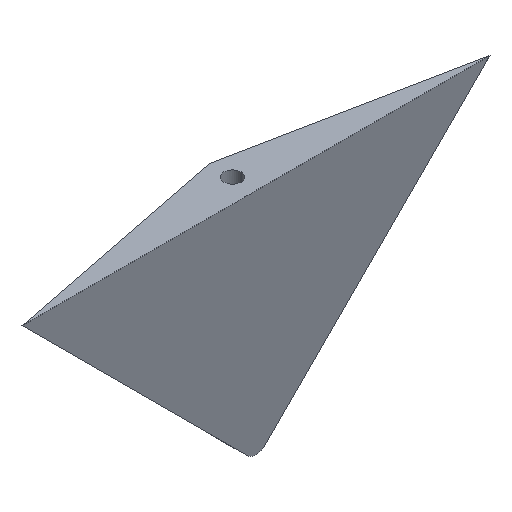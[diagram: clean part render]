
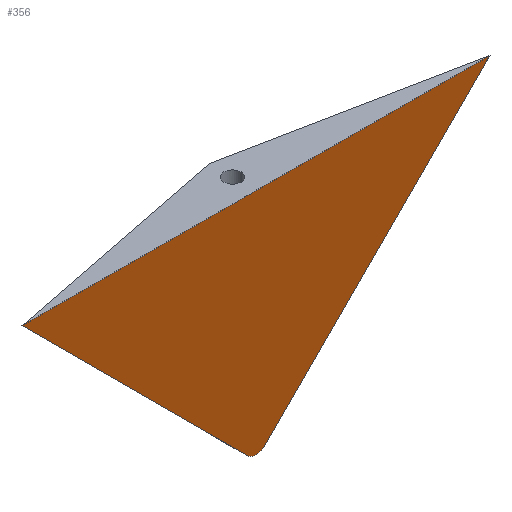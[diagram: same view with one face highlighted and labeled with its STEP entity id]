
A CAD part, isometric view. The second image highlights one B-rep face of the part: STEP entity #356.
In plain terms, the highlighted planar face has unit normal (0, -1, 0).
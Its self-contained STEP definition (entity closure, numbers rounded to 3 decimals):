
#3 = ORIENTED_EDGE ( 'NONE', *, *, #6, .F. ) ;
#5 = EDGE_CURVE ( 'NONE', #343, #60, #54, .T. ) ;
#6 = EDGE_CURVE ( 'NONE', #343, #368, #58, .T. ) ;
#18 = VERTEX_POINT ( 'NONE', #158 ) ;
#54 = LINE ( 'NONE', #55, #56 ) ;
#55 = CARTESIAN_POINT ( 'NONE',  ( -20., 0., 0. ) ) ;
#56 = VECTOR ( 'NONE', #57, 1000. ) ;
#57 = DIRECTION ( 'NONE',  ( 0.707, 0., -0.707 ) ) ;
#58 = LINE ( 'NONE', #62, #63 ) ;
#60 = VERTEX_POINT ( 'NONE', #221 ) ;
#62 = CARTESIAN_POINT ( 'NONE',  ( -20., 0., 0. ) ) ;
#63 = VECTOR ( 'NONE', #64, 1000. ) ;
#64 = DIRECTION ( 'NONE',  ( 1., 0., 0. ) ) ;
#101 = CIRCLE ( 'NONE', #102, 1.061 ) ;
#102 = AXIS2_PLACEMENT_3D ( 'NONE', #103, #104, #105 ) ;
#103 = CARTESIAN_POINT ( 'NONE',  ( 0., 0., -18.5 ) ) ;
#104 = DIRECTION ( 'NONE',  ( 0., -1., 0. ) ) ;
#105 = DIRECTION ( 'NONE',  ( 0., 0., 1. ) ) ;
#158 = CARTESIAN_POINT ( 'NONE',  ( 0., 0., -19.561 ) ) ;
#159 = CARTESIAN_POINT ( 'NONE',  ( -20., 0., 0. ) ) ;
#170 = CIRCLE ( 'NONE', #171, 1.061 ) ;
#171 = AXIS2_PLACEMENT_3D ( 'NONE', #172, #173, #174 ) ;
#172 = CARTESIAN_POINT ( 'NONE',  ( 0., 0., -18.5 ) ) ;
#173 = DIRECTION ( 'NONE',  ( 0., -1., 0. ) ) ;
#174 = DIRECTION ( 'NONE',  ( 0., 0., 1. ) ) ;
#221 = CARTESIAN_POINT ( 'NONE',  ( -0.75, 0., -19.25 ) ) ;
#240 = FACE_OUTER_BOUND ( 'NONE', #271, .T. ) ;
#241 = PLANE ( 'NONE',  #242 ) ;
#242 = AXIS2_PLACEMENT_3D ( 'NONE', #243, #244, #245 ) ;
#243 = CARTESIAN_POINT ( 'NONE',  ( -20., 0., -20. ) ) ;
#244 = DIRECTION ( 'NONE',  ( 0., -1., 0. ) ) ;
#245 = DIRECTION ( 'NONE',  ( 0., 0., -1. ) ) ;
#247 = CARTESIAN_POINT ( 'NONE',  ( 0.75, 0., -19.25 ) ) ;
#264 = LINE ( 'NONE', #265, #266 ) ;
#265 = CARTESIAN_POINT ( 'NONE',  ( 0., 0., -20. ) ) ;
#266 = VECTOR ( 'NONE', #267, 1000. ) ;
#267 = DIRECTION ( 'NONE',  ( 0.707, 0., 0.707 ) ) ;
#271 = EDGE_LOOP ( 'NONE', ( #369, #325, #336, #354, #3 ) ) ;
#286 = CARTESIAN_POINT ( 'NONE',  ( 20., 0., 0. ) ) ;
#325 = ORIENTED_EDGE ( 'NONE', *, *, #380, .T. ) ;
#336 = ORIENTED_EDGE ( 'NONE', *, *, #345, .T. ) ;
#343 = VERTEX_POINT ( 'NONE', #159 ) ;
#345 = EDGE_CURVE ( 'NONE', #18, #359, #170, .T. ) ;
#354 = ORIENTED_EDGE ( 'NONE', *, *, #365, .T. ) ;
#356 = ADVANCED_FACE ( 'NONE', ( #240 ), #241, .T. ) ;
#359 = VERTEX_POINT ( 'NONE', #247 ) ;
#365 = EDGE_CURVE ( 'NONE', #359, #368, #264, .T. ) ;
#368 = VERTEX_POINT ( 'NONE', #286 ) ;
#369 = ORIENTED_EDGE ( 'NONE', *, *, #5, .T. ) ;
#380 = EDGE_CURVE ( 'NONE', #60, #18, #101, .T. ) ;
